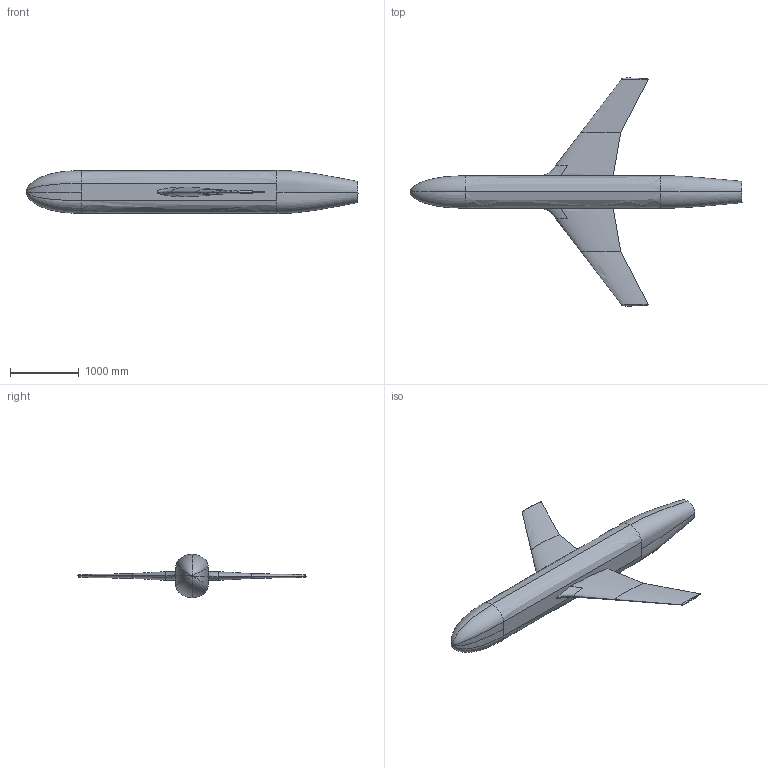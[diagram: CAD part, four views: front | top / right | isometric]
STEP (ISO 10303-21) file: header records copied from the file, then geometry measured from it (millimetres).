
FILE_DESCRIPTION(/* description */ (''),/* implementation_level */ '2;1');
FILE_NAME(/* name */ 'jfm_0015_based_wHorn_harrison_fuselage_2017_02_06_fullspan-0deg_in_tunnel_mod.stp',/* time_stamp */ '2022-08-22T14:11:30-04:00',/* author */ (''),/* organization */ (''),/* preprocessor_version */ 'ST-DEVELOPER v16',/* originating_system */ 'SIEMENS PLM Software NX 10.0',/* authorisation */ '');
FILE_SCHEMA (('AP203_CONFIGURATION_CONTROLLED_3D_DESIGN_OF_MECHANICAL_PARTS_AND_ASSEMBLIES_MIM_LF { 1 0 10303 403 2 1 2}'));
Products named in the file (1): sbry4E4082DFvl0x
Bounding box: 4839.23 x 3325.86 x 629.72 mm (x, y, z)
Volume: 1196545951.5 mm3; surface area: 11766173 mm2
Topology: 1 solids, 1 shells, 41 faces, 96 edges, 51 vertices
Faces by surface type: bspline 24, plane 9, extrusion 8
Entity records: 35493 total; most frequent: CARTESIAN_POINT 34780, ORIENTED_EDGE 176, EDGE_CURVE 88, B_SPLINE_CURVE_WITH_KNOTS 88, VERTEX_POINT 51, EDGE_LOOP 43, ADVANCED_FACE 41, FACE_OUTER_BOUND 39
